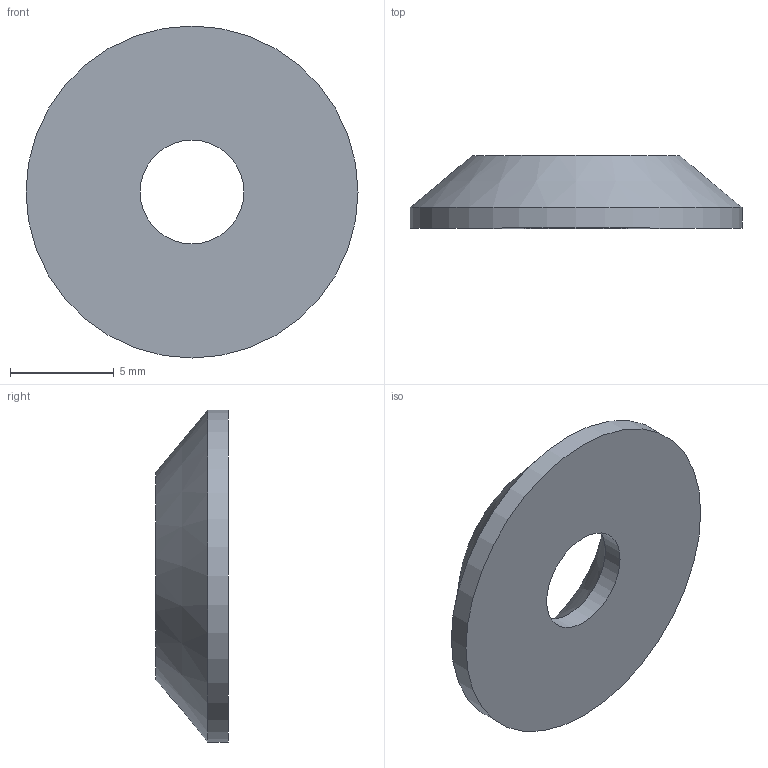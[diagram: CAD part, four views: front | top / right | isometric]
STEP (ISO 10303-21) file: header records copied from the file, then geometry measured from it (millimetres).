
FILE_DESCRIPTION (( 'STEP AP214' ), '1' );
FILE_NAME ('N90104.step', '2024-12-03T16:27:55', ( '' ), ( '' ), 'SwSTEP 2.0', 'SolidWorks 2023', '' );
FILE_SCHEMA (( 'AUTOMOTIVE_DESIGN' ));
Length unit declared in the file: millimetre
Products named in the file (1): N90104
Bounding box: 16 x 3.5 x 16 mm (x, y, z)
Volume: 404.6 mm3; surface area: 490.2 mm2
Topology: 1 solids, 1 shells, 5 faces, 9 edges, 5 vertices
Faces by surface type: cylinder 2, cone 2, plane 1
Full cylindrical faces by diameter (mm): 5 x1, 16 x1
Entity records: 131 total; most frequent: DIRECTION 22, CARTESIAN_POINT 16, AXIS2_PLACEMENT_3D 11, EDGE_LOOP 10, ORIENTED_EDGE 10, FACE_OUTER_BOUND 7, EDGE_CURVE 5, CIRCLE 5
